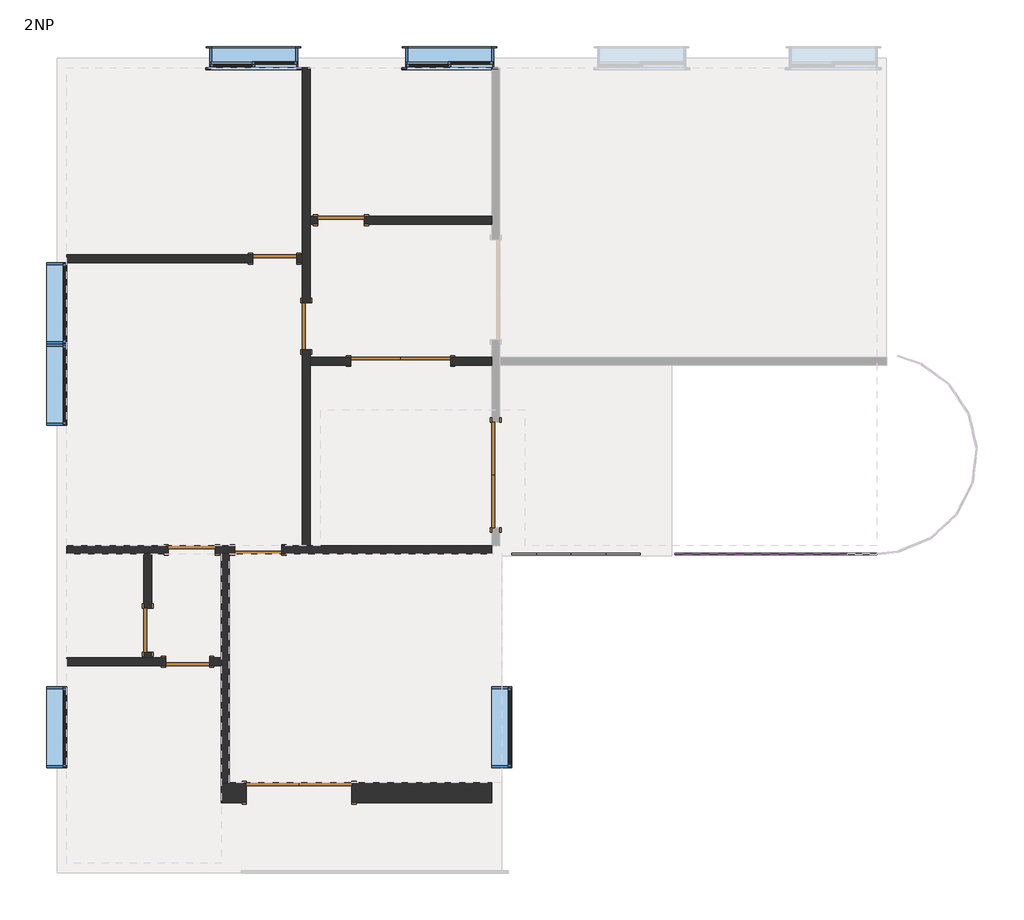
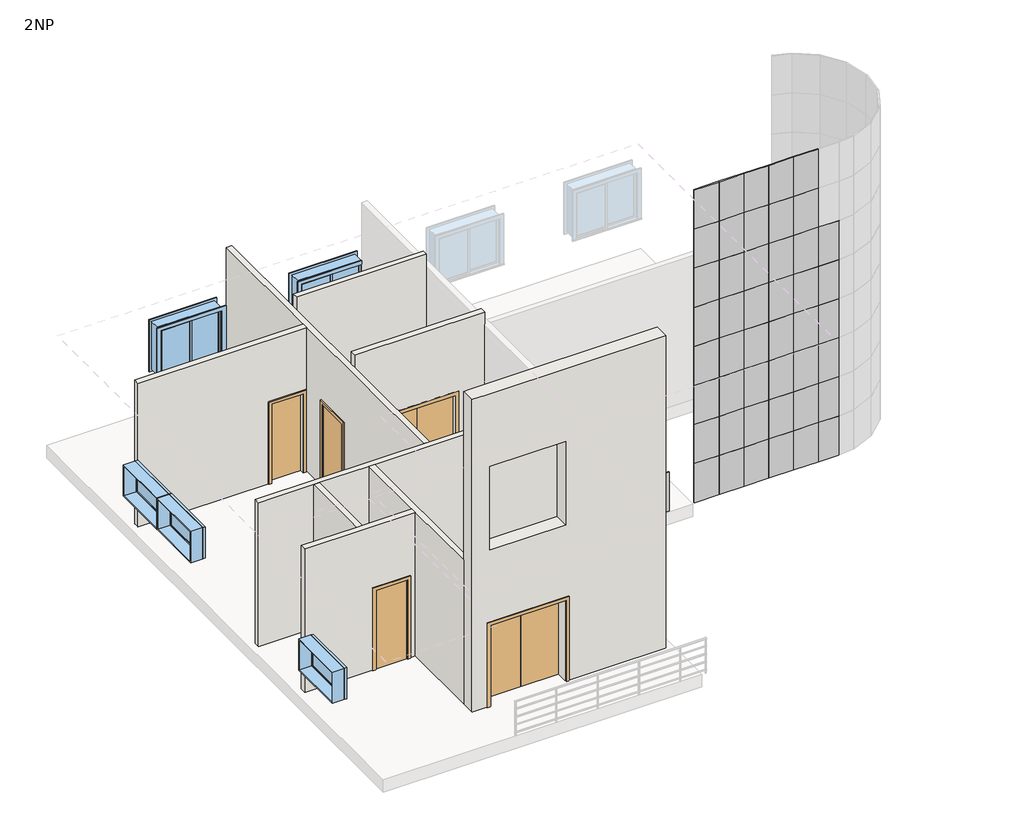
# One storey, part 1 of 2: 50 plates, 10 doors, 9 walls, 6 windows.
"""IFC4 building model written with IfcOpenShell, lengths in millimetres."""

from ifc_helpers import new_model, si_unit, frame, origin, place, context, project, spatial, polyline, outline, extrude, faceted_brep, transform, mapped, element, save
from components import m_double_flush_1730_x_2134mm_e0861497, m_double_flush_1830_x_2083mm_7a28c534, m_double_flush_1830_x_2083mm_6dd157be, m_single_flush_0762_x_2032mm_8f3f8d24, m_single_flush_0762_x_2032mm_93de2473, m_single_flush_0813_x_2134mm_bf4bb56d, m_single_flush_0813_x_2134mm_cfdfac75, system_panel_glazed_c3ce6646, system_panel_glazed_9e0dc01b, system_panel_glazed_8955cf43, m_fixed_1400_x_0800mm_a23a53e8, m_sliding_with_trim_1830_x_1220mm_f8e2f31e

model = new_model("IFC4")

# Units and contexts
model_context = context("Model", 3, world=origin())
ifc_project = project(units=[si_unit("LENGTHUNIT", "METRE", prefix="MILLI")], contexts=[model_context])

# Site, building, storey
site = spatial("IfcSite", under=ifc_project)
building = spatial("IfcBuilding", under=site)
storey = spatial("IfcBuildingStorey", under=building, Name="2NP", Elevation=4000.0)

# Doors
placement = place(None, origin())
m_double_flush_1730_x_2134mm_shape = m_double_flush_1730_x_2134mm_e0861497(model_context)
element("IfcDoor", 1, ObjectType="M_Double-Flush : 1730 x 2134mm", at=placement, inside=storey, context=model_context, shape_type="MappedRepresentation", body=[
    mapped(m_double_flush_1730_x_2134mm_shape, transform((-1393.7077176, 4630.7761065, 4000.0), x_axis=(1.0, 0.0, 0.0), y_axis=(0.0, 1.0, 0.0), z_axis=(0.0, 0.0, 1.0))),
])
m_double_flush_1830_x_2083mm_shape = m_double_flush_1830_x_2083mm_7a28c534(model_context)
element("IfcDoor", 2, ObjectType="M_Double-Flush : 1830 x 2083mm", at=placement, inside=storey, context=model_context, shape_type="MappedRepresentation", body=[
    mapped(m_double_flush_1830_x_2083mm_shape, transform((251.6275179, 2658.1003657, 4000.0), x_axis=(0.0, 1.0, 0.0), y_axis=(-1.0, 0.0, 0.0), z_axis=(0.0, 0.0, 1.0))),
])
m_double_flush_1830_x_2083mm_2_shape = m_double_flush_1830_x_2083mm_6dd157be(model_context)
element("IfcDoor", 3, ObjectType="M_Double-Flush : 1830 x 2083mm", at=placement, inside=storey, context=model_context, shape_type="MappedRepresentation", body=[
    mapped(m_double_flush_1830_x_2083mm_2_shape, transform((-3151.8077176, -2850.1973194, 4000.0), x_axis=(0.9999999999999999, 0.0, 0.0), y_axis=(0.0, 0.9999999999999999, 0.0), z_axis=(0.0, 0.0, 1.0))),
])
m_single_flush_0762_x_2032mm_shape = m_single_flush_0762_x_2032mm_8f3f8d24(model_context)
element("IfcDoor", 4, ObjectType="M_Single-Flush : 0762 x 2032mm", at=placement, inside=storey, context=model_context, shape_type="MappedRepresentation", body=[
    mapped(m_single_flush_0762_x_2032mm_shape, transform((-5086.3077176, -582.9473194, 4000.0), x_axis=(1.0, 0.0, 0.0), y_axis=(0.0, 1.0, 0.0), z_axis=(0.0, 0.0, 1.0))),
])
element("IfcDoor", 5, ObjectType="M_Single-Flush : 0762 x 2032mm", at=placement, inside=storey, context=model_context, shape_type="MappedRepresentation", body=[
    mapped(m_single_flush_0762_x_2032mm_shape, transform((-5774.5577176, -32.6973194, 4000.0), x_axis=(0.0, -1.0, 0.0), y_axis=(1.0, 0.0, 0.0), z_axis=(0.0, 0.0, 1.0))),
])
m_single_flush_0762_x_2032mm_2_shape = m_single_flush_0762_x_2032mm_93de2473(model_context)
element("IfcDoor", 6, ObjectType="M_Single-Flush : 0762 x 2032mm", at=placement, inside=storey, context=model_context, shape_type="MappedRepresentation", body=[
    mapped(m_single_flush_0762_x_2032mm_2_shape, transform((-3578.2077176, 6401.5526806, 4000.0), x_axis=(1.0, 0.0, 0.0), y_axis=(0.0, 1.0, 0.0), z_axis=(0.0, 0.0, 1.0))),
])
m_single_flush_0813_x_2134mm_shape = m_single_flush_0813_x_2134mm_bf4bb56d(model_context)
element("IfcDoor", 7, ObjectType="M_Single-Flush : 0813 x 2134mm", at=placement, inside=storey, context=model_context, shape_type="MappedRepresentation", body=[
    mapped(m_single_flush_0813_x_2134mm_shape, transform((-2426.7077176, 7069.2761065, 4000.0), x_axis=(-1.0, 0.0, 0.0), y_axis=(0.0, -1.0, 0.0), z_axis=(0.0, 0.0, 1.0))),
])
element("IfcDoor", 8, ObjectType="M_Single-Flush : 0813 x 2134mm", at=placement, inside=storey, context=model_context, shape_type="MappedRepresentation", body=[
    mapped(m_single_flush_0813_x_2134mm_shape, transform((-3027.9577176, 5232.0261065, 4000.0), x_axis=(0.0, -1.0, 0.0), y_axis=(1.0, 0.0, 0.0), z_axis=(0.0, 0.0, 1.0))),
])
m_single_flush_0813_x_2134mm_2_shape = m_single_flush_0813_x_2134mm_cfdfac75(model_context)
element("IfcDoor", 9, ObjectType="M_Single-Flush : 0813 x 2134mm", at=placement, inside=storey, context=model_context, shape_type="MappedRepresentation", body=[
    mapped(m_single_flush_0813_x_2134mm_2_shape, transform((-5011.8077176, 1355.5526806, 4000.0), x_axis=(1.0, 0.0, 0.0), y_axis=(0.0, 1.0, 0.0), z_axis=(0.0, 0.0, 1.0))),
])
element("IfcDoor", 10, ObjectType="M_Single-Flush : 0813 x 2134mm", at=placement, inside=storey, context=model_context, shape_type="MappedRepresentation", body=[
    mapped(m_single_flush_0813_x_2134mm_2_shape, transform((-3860.3077176, 1355.5526806, 4000.0), x_axis=(-1.0, 0.0, 0.0), y_axis=(0.0, -1.0, 0.0), z_axis=(0.0, 0.0, 1.0))),
])

# Plates
system_panel_glazed_shape = system_panel_glazed_c3ce6646(model_context)
element("IfcPlate", 11, ObjectType="System Panel : Glazed", at=placement, inside=storey, context=model_context, shape_type="MappedRepresentation", body=[
    mapped(system_panel_glazed_shape, transform((1257.3775179, 1249.8026806, 4000.0), x_axis=(1.0, 0.0, 0.0), y_axis=(0.0, 1.0, 0.0), z_axis=(0.0, 0.0, 1.0))),
])
element("IfcPlate", 12, ObjectType="System Panel : Glazed", at=placement, inside=storey, context=model_context, shape_type="MappedRepresentation", body=[
    mapped(system_panel_glazed_shape, transform((1857.3775179, 1249.8026806, 4000.0), x_axis=(1.0, 0.0, 0.0), y_axis=(0.0, 1.0, 0.0), z_axis=(0.0, 0.0, 1.0))),
])
element("IfcPlate", 13, ObjectType="System Panel : Glazed", at=placement, inside=storey, context=model_context, shape_type="MappedRepresentation", body=[
    mapped(system_panel_glazed_shape, transform((2457.3775179, 1249.8026806, 4000.0), x_axis=(1.0, 0.0, 0.0), y_axis=(0.0, 1.0, 0.0), z_axis=(0.0, 0.0, 1.0))),
])
element("IfcPlate", 14, ObjectType="System Panel : Glazed", at=placement, inside=storey, context=model_context, shape_type="MappedRepresentation", body=[
    mapped(system_panel_glazed_shape, transform((3657.3775179, 1249.8026806, 4000.0), x_axis=(1.0, 0.0, 0.0), y_axis=(0.0, 1.0, 0.0), z_axis=(0.0, 0.0, 1.0))),
])
element("IfcPlate", 15, ObjectType="System Panel : Glazed", at=placement, inside=storey, context=model_context, shape_type="MappedRepresentation", body=[
    mapped(system_panel_glazed_shape, transform((3657.3775179, 1249.8026806, 5000.0), x_axis=(1.0, 0.0, 0.0), y_axis=(0.0, 1.0, 0.0), z_axis=(0.0, 0.0, 1.0))),
])
element("IfcPlate", 16, ObjectType="System Panel : Glazed", at=placement, inside=storey, context=model_context, shape_type="MappedRepresentation", body=[
    mapped(system_panel_glazed_shape, transform((3657.3775179, 1249.8026806, 6000.0), x_axis=(1.0, 0.0, 0.0), y_axis=(0.0, 1.0, 0.0), z_axis=(0.0, 0.0, 1.0))),
])
element("IfcPlate", 17, ObjectType="System Panel : Glazed", at=placement, inside=storey, context=model_context, shape_type="MappedRepresentation", body=[
    mapped(system_panel_glazed_shape, transform((3657.3775179, 1249.8026806, 7000.0), x_axis=(1.0, 0.0, 0.0), y_axis=(0.0, 1.0, 0.0), z_axis=(0.0, 0.0, 1.0))),
])
element("IfcPlate", 18, ObjectType="System Panel : Glazed", at=placement, inside=storey, context=model_context, shape_type="MappedRepresentation", body=[
    mapped(system_panel_glazed_shape, transform((3657.3775179, 1249.8026806, 8000.0), x_axis=(1.0, 0.0, 0.0), y_axis=(0.0, 1.0, 0.0), z_axis=(0.0, 0.0, 1.0))),
])
element("IfcPlate", 19, ObjectType="System Panel : Glazed", at=placement, inside=storey, context=model_context, shape_type="MappedRepresentation", body=[
    mapped(system_panel_glazed_shape, transform((3657.3775179, 1249.8026806, 9000.0), x_axis=(1.0, 0.0, 0.0), y_axis=(0.0, 1.0, 0.0), z_axis=(0.0, 0.0, 1.0))),
])
element("IfcPlate", 20, ObjectType="System Panel : Glazed", at=placement, inside=storey, context=model_context, shape_type="MappedRepresentation", body=[
    mapped(system_panel_glazed_shape, transform((3657.3775179, 1249.8026806, 10000.0), x_axis=(1.0, 0.0, 0.0), y_axis=(0.0, 1.0, 0.0), z_axis=(0.0, 0.0, 1.0))),
])
element("IfcPlate", 21, ObjectType="System Panel : Glazed", at=placement, inside=storey, context=model_context, shape_type="MappedRepresentation", body=[
    mapped(system_panel_glazed_shape, transform((3657.3775179, 1249.8026806, 11000.0), x_axis=(1.0, 0.0, 0.0), y_axis=(0.0, 1.0, 0.0), z_axis=(0.0, 0.0, 1.0))),
])
element("IfcPlate", 22, ObjectType="System Panel : Glazed", at=placement, inside=storey, context=model_context, shape_type="MappedRepresentation", body=[
    mapped(system_panel_glazed_shape, transform((4257.3775179, 1249.8026806, 4000.0), x_axis=(1.0, 0.0, 0.0), y_axis=(0.0, 1.0, 0.0), z_axis=(0.0, 0.0, 1.0))),
])
element("IfcPlate", 23, ObjectType="System Panel : Glazed", at=placement, inside=storey, context=model_context, shape_type="MappedRepresentation", body=[
    mapped(system_panel_glazed_shape, transform((4257.3775179, 1249.8026806, 5000.0), x_axis=(1.0, 0.0, 0.0), y_axis=(0.0, 1.0, 0.0), z_axis=(0.0, 0.0, 1.0))),
])
element("IfcPlate", 24, ObjectType="System Panel : Glazed", at=placement, inside=storey, context=model_context, shape_type="MappedRepresentation", body=[
    mapped(system_panel_glazed_shape, transform((4257.3775179, 1249.8026806, 6000.0), x_axis=(1.0, 0.0, 0.0), y_axis=(0.0, 1.0, 0.0), z_axis=(0.0, 0.0, 1.0))),
])
element("IfcPlate", 25, ObjectType="System Panel : Glazed", at=placement, inside=storey, context=model_context, shape_type="MappedRepresentation", body=[
    mapped(system_panel_glazed_shape, transform((4257.3775179, 1249.8026806, 7000.0), x_axis=(1.0, 0.0, 0.0), y_axis=(0.0, 1.0, 0.0), z_axis=(0.0, 0.0, 1.0))),
])
element("IfcPlate", 26, ObjectType="System Panel : Glazed", at=placement, inside=storey, context=model_context, shape_type="MappedRepresentation", body=[
    mapped(system_panel_glazed_shape, transform((4257.3775179, 1249.8026806, 8000.0), x_axis=(1.0, 0.0, 0.0), y_axis=(0.0, 1.0, 0.0), z_axis=(0.0, 0.0, 1.0))),
])
element("IfcPlate", 27, ObjectType="System Panel : Glazed", at=placement, inside=storey, context=model_context, shape_type="MappedRepresentation", body=[
    mapped(system_panel_glazed_shape, transform((4257.3775179, 1249.8026806, 9000.0), x_axis=(1.0, 0.0, 0.0), y_axis=(0.0, 1.0, 0.0), z_axis=(0.0, 0.0, 1.0))),
])
element("IfcPlate", 28, ObjectType="System Panel : Glazed", at=placement, inside=storey, context=model_context, shape_type="MappedRepresentation", body=[
    mapped(system_panel_glazed_shape, transform((4257.3775179, 1249.8026806, 10000.0), x_axis=(1.0, 0.0, 0.0), y_axis=(0.0, 1.0, 0.0), z_axis=(0.0, 0.0, 1.0))),
])
element("IfcPlate", 29, ObjectType="System Panel : Glazed", at=placement, inside=storey, context=model_context, shape_type="MappedRepresentation", body=[
    mapped(system_panel_glazed_shape, transform((4257.3775179, 1249.8026806, 11000.0), x_axis=(1.0, 0.0, 0.0), y_axis=(0.0, 1.0, 0.0), z_axis=(0.0, 0.0, 1.0))),
])
element("IfcPlate", 30, ObjectType="System Panel : Glazed", at=placement, inside=storey, context=model_context, shape_type="MappedRepresentation", body=[
    mapped(system_panel_glazed_shape, transform((4857.3775179, 1249.8026806, 4000.0), x_axis=(1.0, 0.0, 0.0), y_axis=(0.0, 1.0, 0.0), z_axis=(0.0, 0.0, 1.0))),
])
element("IfcPlate", 31, ObjectType="System Panel : Glazed", at=placement, inside=storey, context=model_context, shape_type="MappedRepresentation", body=[
    mapped(system_panel_glazed_shape, transform((4857.3775179, 1249.8026806, 5000.0), x_axis=(1.0, 0.0, 0.0), y_axis=(0.0, 1.0, 0.0), z_axis=(0.0, 0.0, 1.0))),
])
element("IfcPlate", 32, ObjectType="System Panel : Glazed", at=placement, inside=storey, context=model_context, shape_type="MappedRepresentation", body=[
    mapped(system_panel_glazed_shape, transform((4857.3775179, 1249.8026806, 6000.0), x_axis=(1.0, 0.0, 0.0), y_axis=(0.0, 1.0, 0.0), z_axis=(0.0, 0.0, 1.0))),
])
element("IfcPlate", 33, ObjectType="System Panel : Glazed", at=placement, inside=storey, context=model_context, shape_type="MappedRepresentation", body=[
    mapped(system_panel_glazed_shape, transform((4857.3775179, 1249.8026806, 7000.0), x_axis=(1.0, 0.0, 0.0), y_axis=(0.0, 1.0, 0.0), z_axis=(0.0, 0.0, 1.0))),
])
element("IfcPlate", 34, ObjectType="System Panel : Glazed", at=placement, inside=storey, context=model_context, shape_type="MappedRepresentation", body=[
    mapped(system_panel_glazed_shape, transform((4857.3775179, 1249.8026806, 8000.0), x_axis=(1.0, 0.0, 0.0), y_axis=(0.0, 1.0, 0.0), z_axis=(0.0, 0.0, 1.0))),
])
element("IfcPlate", 35, ObjectType="System Panel : Glazed", at=placement, inside=storey, context=model_context, shape_type="MappedRepresentation", body=[
    mapped(system_panel_glazed_shape, transform((4857.3775179, 1249.8026806, 9000.0), x_axis=(1.0, 0.0, 0.0), y_axis=(0.0, 1.0, 0.0), z_axis=(0.0, 0.0, 1.0))),
])
element("IfcPlate", 36, ObjectType="System Panel : Glazed", at=placement, inside=storey, context=model_context, shape_type="MappedRepresentation", body=[
    mapped(system_panel_glazed_shape, transform((4857.3775179, 1249.8026806, 10000.0), x_axis=(1.0, 0.0, 0.0), y_axis=(0.0, 1.0, 0.0), z_axis=(0.0, 0.0, 1.0))),
])
element("IfcPlate", 37, ObjectType="System Panel : Glazed", at=placement, inside=storey, context=model_context, shape_type="MappedRepresentation", body=[
    mapped(system_panel_glazed_shape, transform((4857.3775179, 1249.8026806, 11000.0), x_axis=(1.0, 0.0, 0.0), y_axis=(0.0, 1.0, 0.0), z_axis=(0.0, 0.0, 1.0))),
])
element("IfcPlate", 38, ObjectType="System Panel : Glazed", at=placement, inside=storey, context=model_context, shape_type="MappedRepresentation", body=[
    mapped(system_panel_glazed_shape, transform((5457.3775179, 1249.8026806, 4000.0), x_axis=(1.0, 0.0, 0.0), y_axis=(0.0, 1.0, 0.0), z_axis=(0.0, 0.0, 1.0))),
])
element("IfcPlate", 39, ObjectType="System Panel : Glazed", at=placement, inside=storey, context=model_context, shape_type="MappedRepresentation", body=[
    mapped(system_panel_glazed_shape, transform((5457.3775179, 1249.8026806, 5000.0), x_axis=(1.0, 0.0, 0.0), y_axis=(0.0, 1.0, 0.0), z_axis=(0.0, 0.0, 1.0))),
])
element("IfcPlate", 40, ObjectType="System Panel : Glazed", at=placement, inside=storey, context=model_context, shape_type="MappedRepresentation", body=[
    mapped(system_panel_glazed_shape, transform((5457.3775179, 1249.8026806, 6000.0), x_axis=(1.0, 0.0, 0.0), y_axis=(0.0, 1.0, 0.0), z_axis=(0.0, 0.0, 1.0))),
])
element("IfcPlate", 41, ObjectType="System Panel : Glazed", at=placement, inside=storey, context=model_context, shape_type="MappedRepresentation", body=[
    mapped(system_panel_glazed_shape, transform((5457.3775179, 1249.8026806, 7000.0), x_axis=(1.0, 0.0, 0.0), y_axis=(0.0, 1.0, 0.0), z_axis=(0.0, 0.0, 1.0))),
])
element("IfcPlate", 42, ObjectType="System Panel : Glazed", at=placement, inside=storey, context=model_context, shape_type="MappedRepresentation", body=[
    mapped(system_panel_glazed_shape, transform((5457.3775179, 1249.8026806, 8000.0), x_axis=(1.0, 0.0, 0.0), y_axis=(0.0, 1.0, 0.0), z_axis=(0.0, 0.0, 1.0))),
])
element("IfcPlate", 43, ObjectType="System Panel : Glazed", at=placement, inside=storey, context=model_context, shape_type="MappedRepresentation", body=[
    mapped(system_panel_glazed_shape, transform((5457.3775179, 1249.8026806, 9000.0), x_axis=(1.0, 0.0, 0.0), y_axis=(0.0, 1.0, 0.0), z_axis=(0.0, 0.0, 1.0))),
])
element("IfcPlate", 44, ObjectType="System Panel : Glazed", at=placement, inside=storey, context=model_context, shape_type="MappedRepresentation", body=[
    mapped(system_panel_glazed_shape, transform((5457.3775179, 1249.8026806, 10000.0), x_axis=(1.0, 0.0, 0.0), y_axis=(0.0, 1.0, 0.0), z_axis=(0.0, 0.0, 1.0))),
])
element("IfcPlate", 45, ObjectType="System Panel : Glazed", at=placement, inside=storey, context=model_context, shape_type="MappedRepresentation", body=[
    mapped(system_panel_glazed_shape, transform((5457.3775179, 1249.8026806, 11000.0), x_axis=(1.0, 0.0, 0.0), y_axis=(0.0, 1.0, 0.0), z_axis=(0.0, 0.0, 1.0))),
])
element("IfcPlate", 46, ObjectType="System Panel : Glazed", at=placement, inside=storey, context=model_context, shape_type="MappedRepresentation", body=[
    mapped(system_panel_glazed_shape, transform((6057.3775179, 1249.8026806, 4000.0), x_axis=(1.0, 0.0, 0.0), y_axis=(0.0, 1.0, 0.0), z_axis=(0.0, 0.0, 1.0))),
])
element("IfcPlate", 47, ObjectType="System Panel : Glazed", at=placement, inside=storey, context=model_context, shape_type="MappedRepresentation", body=[
    mapped(system_panel_glazed_shape, transform((6057.3775179, 1249.8026806, 5000.0), x_axis=(1.0, 0.0, 0.0), y_axis=(0.0, 1.0, 0.0), z_axis=(0.0, 0.0, 1.0))),
])
element("IfcPlate", 48, ObjectType="System Panel : Glazed", at=placement, inside=storey, context=model_context, shape_type="MappedRepresentation", body=[
    mapped(system_panel_glazed_shape, transform((6057.3775179, 1249.8026806, 6000.0), x_axis=(1.0, 0.0, 0.0), y_axis=(0.0, 1.0, 0.0), z_axis=(0.0, 0.0, 1.0))),
])
element("IfcPlate", 49, ObjectType="System Panel : Glazed", at=placement, inside=storey, context=model_context, shape_type="MappedRepresentation", body=[
    mapped(system_panel_glazed_shape, transform((6057.3775179, 1249.8026806, 7000.0), x_axis=(1.0, 0.0, 0.0), y_axis=(0.0, 1.0, 0.0), z_axis=(0.0, 0.0, 1.0))),
])
element("IfcPlate", 50, ObjectType="System Panel : Glazed", at=placement, inside=storey, context=model_context, shape_type="MappedRepresentation", body=[
    mapped(system_panel_glazed_shape, transform((6057.3775179, 1249.8026806, 8000.0), x_axis=(1.0, 0.0, 0.0), y_axis=(0.0, 1.0, 0.0), z_axis=(0.0, 0.0, 1.0))),
])
element("IfcPlate", 51, ObjectType="System Panel : Glazed", at=placement, inside=storey, context=model_context, shape_type="MappedRepresentation", body=[
    mapped(system_panel_glazed_shape, transform((6057.3775179, 1249.8026806, 9000.0), x_axis=(1.0, 0.0, 0.0), y_axis=(0.0, 1.0, 0.0), z_axis=(0.0, 0.0, 1.0))),
])
element("IfcPlate", 52, ObjectType="System Panel : Glazed", at=placement, inside=storey, context=model_context, shape_type="MappedRepresentation", body=[
    mapped(system_panel_glazed_shape, transform((6057.3775179, 1249.8026806, 10000.0), x_axis=(1.0, 0.0, 0.0), y_axis=(0.0, 1.0, 0.0), z_axis=(0.0, 0.0, 1.0))),
])
element("IfcPlate", 53, ObjectType="System Panel : Glazed", at=placement, inside=storey, context=model_context, shape_type="MappedRepresentation", body=[
    mapped(system_panel_glazed_shape, transform((6057.3775179, 1249.8026806, 11000.0), x_axis=(1.0, 0.0, 0.0), y_axis=(0.0, 1.0, 0.0), z_axis=(0.0, 0.0, 1.0))),
])
system_panel_glazed_2_shape = system_panel_glazed_9e0dc01b(model_context)
element("IfcPlate", 54, ObjectType="System Panel : Glazed", at=placement, inside=storey, context=model_context, shape_type="MappedRepresentation", body=[
    mapped(system_panel_glazed_2_shape, transform((744.8775179, 1249.8026806, 4000.0), x_axis=(1.0, 0.0, 0.0), y_axis=(0.0, 1.0, 0.0), z_axis=(0.0, 0.0, 1.0))),
])
system_panel_glazed_3_shape = system_panel_glazed_8955cf43(model_context)
element("IfcPlate", 55, ObjectType="System Panel : Glazed", at=placement, inside=storey, context=model_context, shape_type="MappedRepresentation", body=[
    mapped(system_panel_glazed_3_shape, transform((6608.1852814, 1249.8026806, 4000.0), x_axis=(1.0, 0.0, 0.0), y_axis=(0.0, 1.0, 0.0), z_axis=(0.0, 0.0, 1.0))),
])
element("IfcPlate", 56, ObjectType="System Panel : Glazed", at=placement, inside=storey, context=model_context, shape_type="MappedRepresentation", body=[
    mapped(system_panel_glazed_3_shape, transform((6608.1852814, 1249.8026806, 5000.0), x_axis=(1.0, 0.0, 0.0), y_axis=(0.0, 1.0, 0.0), z_axis=(0.0, 0.0, 1.0))),
])
element("IfcPlate", 57, ObjectType="System Panel : Glazed", at=placement, inside=storey, context=model_context, shape_type="MappedRepresentation", body=[
    mapped(system_panel_glazed_3_shape, transform((6608.1852814, 1249.8026806, 6000.0), x_axis=(1.0, 0.0, 0.0), y_axis=(0.0, 1.0, 0.0), z_axis=(0.0, 0.0, 1.0))),
])
element("IfcPlate", 58, ObjectType="System Panel : Glazed", at=placement, inside=storey, context=model_context, shape_type="MappedRepresentation", body=[
    mapped(system_panel_glazed_3_shape, transform((6608.1852814, 1249.8026806, 7000.0), x_axis=(1.0, 0.0, 0.0), y_axis=(0.0, 1.0, 0.0), z_axis=(0.0, 0.0, 1.0))),
])
element("IfcPlate", 59, ObjectType="System Panel : Glazed", at=placement, inside=storey, context=model_context, shape_type="MappedRepresentation", body=[
    mapped(system_panel_glazed_3_shape, transform((6608.1852814, 1249.8026806, 8000.0), x_axis=(1.0, 0.0, 0.0), y_axis=(0.0, 1.0, 0.0), z_axis=(0.0, 0.0, 1.0))),
])
element("IfcPlate", 60, ObjectType="System Panel : Glazed", at=placement, inside=storey, context=model_context, shape_type="MappedRepresentation", body=[
    mapped(system_panel_glazed_3_shape, transform((6608.1852814, 1249.8026806, 9000.0), x_axis=(1.0, 0.0, 0.0), y_axis=(0.0, 1.0, 0.0), z_axis=(0.0, 0.0, 1.0))),
])

# Walls
element("IfcWall", 61, ObjectType="Exterior - Brick on Mtl. Stud", at=placement, inside=storey, context=model_context, shape_type="Brep", body=[
    faceted_brep([(-2236.8077176, -3025.1973194, 6083.0), (-2236.8077176, -3025.1973194, 4000.0), (182.3775179, -3025.1973194, 4000.0), (182.3775179, -3025.1973194, 12000.0), (-4155.3077176, -3025.1973194, 12000.0), (-4505.3077176, -3025.1973194, 12000.0), (-4505.3077176, -3025.1973194, 4000.0), (-4155.3077176, -3025.1973194, 4000.0), (-4066.8077176, -3025.1973194, 4000.0), (-4066.8077176, -3025.1973194, 6083.0), (-2236.8077176, -3025.1973194, 8000.0), (-4066.8077176, -3025.1973194, 8000.0), (-4066.8077176, -3025.1973194, 10134.0), (-2236.8077176, -3025.1973194, 10134.0), (182.3775179, -2675.1973194, 4000.0), (-2236.8077176, -2675.1973194, 4000.0), (-2236.8077176, -2675.1973194, 6083.0), (-4066.8077176, -2675.1973194, 6083.0), (-4066.8077176, -2675.1973194, 4000.0), (-4155.3077176, -2675.1973194, 4000.0), (-4505.3077176, -2675.1973194, 4000.0), (-4505.3077176, -2675.1973194, 7680.0), (-4505.3077176, -2675.1973194, 8000.0), (-4505.3077176, -2675.1973194, 12000.0), (-4366.8077176, -2675.1973194, 12000.0), (182.3775179, -2675.1973194, 12000.0), (-2236.8077176, -2675.1973194, 8000.0), (-2236.8077176, -2675.1973194, 10134.0), (-4066.8077176, -2675.1973194, 10134.0), (-4066.8077176, -2675.1973194, 8000.0)], [[[0, 1, 2, 3, 4, 5, 6, 7, 8, 9], [10, 11, 12, 13]], [[14, 15, 16, 17, 18, 19, 20, 21, 22, 23, 24, 25], [26, 27, 28, 29]], [[2, 1, 15, 14]], [[8, 7, 6, 20, 19, 18]], [[5, 4, 3, 25, 24, 23]], [[5, 23, 22, 21, 20, 6]], [[3, 2, 14, 25]], [[16, 15, 1, 0]], [[17, 16, 0, 9]], [[18, 17, 9, 8]], [[27, 26, 10, 13]], [[28, 27, 13, 12]], [[29, 28, 12, 11]], [[26, 29, 11, 10]]]),
])
element("IfcWall", 62, ObjectType="Interior - 138mm Partition (1-hr)", at=placement, inside=storey, context=model_context, shape_type="Brep", body=[
    faceted_brep([(-4266.8077176, 1424.8026806, 6134.0), (-4266.8077176, 1424.8026806, 4000.0), (-4605.3077176, 1424.8026806, 4000.0), (-4605.3077176, 1424.8026806, 6134.0), (-5418.3077176, 1424.8026806, 6134.0), (-5418.3077176, 1424.8026806, 4000.0), (-7180.3077176, 1424.8026806, 4000.0), (-7180.3077176, 1424.8026806, 7680.0), (182.3775179, 1424.8026806, 7680.0), (182.3775179, 1424.8026806, 4000.0), (-3453.8077176, 1424.8026806, 4000.0), (-3453.8077176, 1424.8026806, 6134.0), (-4605.3077176, 1286.3026806, 4000.0), (-4505.3077176, 1286.3026806, 4000.0), (-4366.8077176, 1286.3026806, 4000.0), (-4266.8077176, 1286.3026806, 4000.0), (-4266.8077176, 1286.3026806, 6134.0), (-3453.8077176, 1286.3026806, 6134.0), (-3453.8077176, 1286.3026806, 4000.0), (182.3775179, 1286.3026806, 4000.0), (182.3775179, 1286.3026806, 7680.0), (-4366.8077176, 1286.3026806, 7680.0), (-4505.3077176, 1286.3026806, 7680.0), (-5705.3077176, 1286.3026806, 7680.0), (-5843.8077176, 1286.3026806, 7680.0), (-7180.3077176, 1286.3026806, 7680.0), (-7180.3077176, 1286.3026806, 4000.0), (-5843.8077176, 1286.3026806, 4000.0), (-5705.3077176, 1286.3026806, 4000.0), (-5418.3077176, 1286.3026806, 4000.0), (-5418.3077176, 1286.3026806, 6134.0), (-4605.3077176, 1286.3026806, 6134.0)], [[[0, 1, 2, 3, 4, 5, 6, 7, 8, 9, 10, 11]], [[12, 13, 14, 15, 16, 17, 18, 19, 20, 21, 22, 23, 24, 25, 26, 27, 28, 29, 30, 31]], [[2, 1, 15, 14, 13, 12]], [[29, 28, 27, 26, 6, 5]], [[10, 9, 19, 18]], [[7, 6, 26, 25]], [[9, 8, 20, 19]], [[8, 7, 25, 24, 23, 22, 21, 20]], [[3, 2, 12, 31]], [[4, 3, 31, 30]], [[5, 4, 30, 29]], [[16, 15, 1, 0]], [[17, 16, 0, 11]], [[18, 17, 11, 10]]]),
])
element("IfcWall", 63, ObjectType="Interior - 138mm Partition (1-hr)", at=placement, inside=storey, context=model_context, shape_type="Brep", body=[
    faceted_brep([(-2958.7077176, 1424.8026806, 4000.0), (-2958.7077176, 4561.5261065, 4000.0), (-2958.7077176, 4700.0261065, 4000.0), (-2958.7077176, 4825.5261065, 4000.0), (-2958.7077176, 4825.5261065, 6134.0), (-2958.7077176, 5638.5261065, 6134.0), (-2958.7077176, 5638.5261065, 4000.0), (-2958.7077176, 7000.0261065, 4000.0), (-2958.7077176, 7138.5261065, 4000.0), (-2958.7077176, 9711.6003657, 4000.0), (-2958.7077176, 9711.6003657, 7680.0), (-2958.7077176, 1424.8026806, 7680.0), (-3097.2077176, 4825.5261065, 6134.0), (-3097.2077176, 4825.5261065, 4000.0), (-3097.2077176, 1424.8026806, 4000.0), (-3097.2077176, 1424.8026806, 7680.0), (-3097.2077176, 6332.3026806, 7680.0), (-3097.2077176, 6470.8026806, 7680.0), (-3097.2077176, 9711.6003657, 7680.0), (-3097.2077176, 9711.6003657, 4000.0), (-3097.2077176, 6470.8026806, 4000.0), (-3097.2077176, 6332.3026806, 4000.0), (-3097.2077176, 5638.5261065, 4000.0), (-3097.2077176, 5638.5261065, 6134.0)], [[[0, 1, 2, 3, 4, 5, 6, 7, 8, 9, 10, 11]], [[12, 13, 14, 15, 16, 17, 18, 19, 20, 21, 22, 23]], [[14, 13, 3, 2, 1, 0]], [[22, 21, 20, 19, 9, 8, 7, 6]], [[10, 9, 19, 18]], [[0, 11, 15, 14]], [[11, 10, 18, 17, 16, 15]], [[4, 3, 13, 12]], [[5, 4, 12, 23]], [[6, 5, 23, 22]]]),
])
element("IfcWall", 64, ObjectType="Interior - 138mm Partition (1-hr)", at=placement, inside=storey, context=model_context, shape_type="Brep", body=[
    faceted_brep([(-3097.2077176, 6470.8026806, 4000.0), (-3197.2077176, 6470.8026806, 4000.0), (-3197.2077176, 6470.8026806, 6032.0), (-3959.2077176, 6470.8026806, 6032.0), (-3959.2077176, 6470.8026806, 4000.0), (-7180.3077176, 6470.8026806, 4000.0), (-7180.3077176, 6470.8026806, 7680.0), (-3097.2077176, 6470.8026806, 7680.0), (-3197.2077176, 6332.3026806, 6032.0), (-3197.2077176, 6332.3026806, 4000.0), (-3097.2077176, 6332.3026806, 4000.0), (-3097.2077176, 6332.3026806, 7680.0), (-7180.3077176, 6332.3026806, 7680.0), (-7180.3077176, 6332.3026806, 5715.0), (-7180.3077176, 6332.3026806, 4915.0), (-7180.3077176, 6332.3026806, 4000.0), (-3959.2077176, 6332.3026806, 4000.0), (-3959.2077176, 6332.3026806, 6032.0)], [[[0, 1, 2, 3, 4, 5, 6, 7]], [[8, 9, 10, 11, 12, 13, 14, 15, 16, 17]], [[10, 9, 1, 0]], [[16, 15, 5, 4]], [[0, 7, 11, 10]], [[6, 5, 15, 14, 13, 12]], [[7, 6, 12, 11]], [[2, 1, 9, 8]], [[3, 2, 8, 17]], [[4, 3, 17, 16]]]),
])
element("IfcWall", 65, ObjectType="Interior - 138mm Partition (1-hr)", at=placement, inside=storey, context=model_context, shape_type="SweptSolid", body=[
    extrude(outline(polyline([(6134.0, -528.7077176), (4000.0, -528.7077176), (4000.0, 182.3775179), (8000.0, 182.3775179), (8000.0, -2958.7077176), (4000.0, -2958.7077176), (4000.0, -2258.7077176), (6134.0, -2258.7077176), (6134.0, -528.7077176)])), frame((0.0, 4561.5261065, 0.0), z_axis=(0.0, 1.0, 0.0), x_axis=(0.0, 0.0, 1.0)), (0.0, 0.0, 1.0), 138.5),
])
element("IfcWall", 66, ObjectType="Interior - 138mm Partition (1-hr)", at=placement, inside=storey, context=model_context, shape_type="SweptSolid", body=[
    extrude(outline(polyline([(4000.0, -2958.7077176), (4000.0, -2833.2077176), (6134.0, -2833.2077176), (6134.0, -2020.2077176), (4000.0, -2020.2077176), (4000.0, 182.3775179), (8000.0, 182.3775179), (8000.0, -2958.7077176), (4000.0, -2958.7077176)])), frame((0.0, 7000.0261065, 0.0), z_axis=(0.0, 1.0, 0.0), x_axis=(0.0, 0.0, 1.0)), (0.0, 0.0, 1.0), 138.5),
])
element("IfcWall", 67, ObjectType="Interior - 138mm Partition (1-hr)", at=placement, inside=storey, context=model_context, shape_type="Brep", body=[
    faceted_brep([(-4505.3077176, 1286.3026806, 4000.0), (-4505.3077176, -513.6973194, 4000.0), (-4505.3077176, -652.1973194, 4000.0), (-4505.3077176, -2675.1973194, 4000.0), (-4505.3077176, -2675.1973194, 7680.0), (-4505.3077176, -652.1973194, 7680.0), (-4505.3077176, -513.6973194, 7680.0), (-4505.3077176, 1286.3026806, 7680.0), (-4366.8077176, 1286.3026806, 4000.0), (-4366.8077176, 1286.3026806, 7680.0), (-4366.8077176, -2675.1973194, 7680.0), (-4366.8077176, -2675.1973194, 4000.0)], [[[0, 1, 2, 3, 4, 5, 6, 7]], [[8, 9, 10, 11]], [[3, 2, 1, 0, 8, 11]], [[4, 3, 11, 10]], [[0, 7, 9, 8]], [[7, 6, 5, 4, 10, 9]]]),
])
element("IfcWall", 68, ObjectType="Interior - 138mm Partition (1-hr)", at=placement, inside=storey, context=model_context, shape_type="Brep", body=[
    faceted_brep([(-7180.3077176, -652.1973194, 7680.0), (-7180.3077176, -652.1973194, 4000.0), (-5467.3077176, -652.1973194, 4000.0), (-5467.3077176, -652.1973194, 6032.0), (-4705.3077176, -652.1973194, 6032.0), (-4705.3077176, -652.1973194, 4000.0), (-4505.3077176, -652.1973194, 4000.0), (-4505.3077176, -652.1973194, 7680.0), (-7180.3077176, -513.6973194, 4000.0), (-7180.3077176, -513.6973194, 7680.0), (-5843.8077176, -513.6973194, 7680.0), (-5705.3077176, -513.6973194, 7680.0), (-4505.3077176, -513.6973194, 7680.0), (-4505.3077176, -513.6973194, 4000.0), (-4705.3077176, -513.6973194, 4000.0), (-4705.3077176, -513.6973194, 6032.0), (-5467.3077176, -513.6973194, 6032.0), (-5467.3077176, -513.6973194, 4000.0), (-5705.3077176, -513.6973194, 4000.0), (-5843.8077176, -513.6973194, 4000.0)], [[[0, 1, 2, 3, 4, 5, 6, 7]], [[8, 9, 10, 11, 12, 13, 14, 15, 16, 17, 18, 19]], [[1, 8, 19, 18, 17, 2]], [[13, 6, 5, 14]], [[1, 0, 9, 8]], [[7, 6, 13, 12]], [[0, 7, 12, 11, 10, 9]], [[4, 15, 14, 5]], [[15, 4, 3, 16]], [[16, 3, 2, 17]]]),
])
element("IfcWall", 69, ObjectType="Interior - 138mm Partition (1-hr)", at=placement, inside=storey, context=model_context, shape_type="SweptSolid", body=[
    extrude(outline(polyline([(-413.6973194, 6032.0), (-413.6973194, 4000.0), (-513.6973194, 4000.0), (-513.6973194, 7680.0), (1286.3026806, 7680.0), (1286.3026806, 4000.0), (348.3026806, 4000.0), (348.3026806, 6032.0), (-413.6973194, 6032.0)])), frame((-5843.8077176, 0.0, 0.0), z_axis=(1.0, 0.0, 0.0), x_axis=(0.0, 1.0, 0.0)), (0.0, 0.0, 1.0), 138.5),
])

# Windows
m_fixed_1400_x_0800mm_shape = m_fixed_1400_x_0800mm_a23a53e8(model_context)
element("IfcWindow", 70, ObjectType="M_Fixed : 1400 x 0800mm", at=placement, inside=storey, context=model_context, shape_type="MappedRepresentation", body=[
    mapped(m_fixed_1400_x_0800mm_shape, transform((-7368.3077176, -1717.6973194, 4000.0), x_axis=(0.0, -1.0, 0.0), y_axis=(1.0, 0.0, 0.0), z_axis=(0.0, 0.0, 1.0))),
])
element("IfcWindow", 71, ObjectType="M_Fixed : 1400 x 0800mm", at=placement, inside=storey, context=model_context, shape_type="MappedRepresentation", body=[
    mapped(m_fixed_1400_x_0800mm_shape, transform((-7368.3077176, 4217.3026806, 4000.0), x_axis=(0.0, -1.0, 0.0), y_axis=(1.0, 0.0, 0.0), z_axis=(0.0, 0.0, 1.0))),
])
element("IfcWindow", 72, ObjectType="M_Fixed : 1400 x 0800mm", at=placement, inside=storey, context=model_context, shape_type="MappedRepresentation", body=[
    mapped(m_fixed_1400_x_0800mm_shape, transform((-7368.3077176, 5632.3026806, 4000.0), x_axis=(0.0, -1.0, 0.0), y_axis=(1.0, 0.0, 0.0), z_axis=(0.0, 0.0, 1.0))),
])
element("IfcWindow", 73, ObjectType="M_Fixed : 1400 x 0800mm", at=placement, inside=storey, context=model_context, shape_type="MappedRepresentation", body=[
    mapped(m_fixed_1400_x_0800mm_shape, transform((344.3775179, -1717.6973194, 4000.0), x_axis=(0.0, -1.0, 0.0), y_axis=(1.0, 0.0, 0.0), z_axis=(0.0, 0.0, 1.0))),
])
m_sliding_with_trim_1830_x_1220mm_shape = m_sliding_with_trim_1830_x_1220mm_f8e2f31e(model_context)
element("IfcWindow", 74, ObjectType="M_Sliding with Trim : 1830 x 1220mm", at=placement, inside=storey, context=model_context, shape_type="MappedRepresentation", body=[
    mapped(m_sliding_with_trim_1830_x_1220mm_shape, transform((-544.3077176, 9886.6003657, 4000.0), x_axis=(-1.0, 0.0, 0.0), y_axis=(0.0, -1.0, 0.0), z_axis=(0.0, 0.0, 1.0))),
])
element("IfcWindow", 75, ObjectType="M_Sliding with Trim : 1830 x 1220mm", at=placement, inside=storey, context=model_context, shape_type="MappedRepresentation", body=[
    mapped(m_sliding_with_trim_1830_x_1220mm_shape, transform((-3940.1577176, 9886.6003657, 4000.0), x_axis=(-1.0, 0.0, 0.0), y_axis=(0.0, -1.0, 0.0), z_axis=(0.0, 0.0, 1.0))),
])

save(model, "model.ifc")
